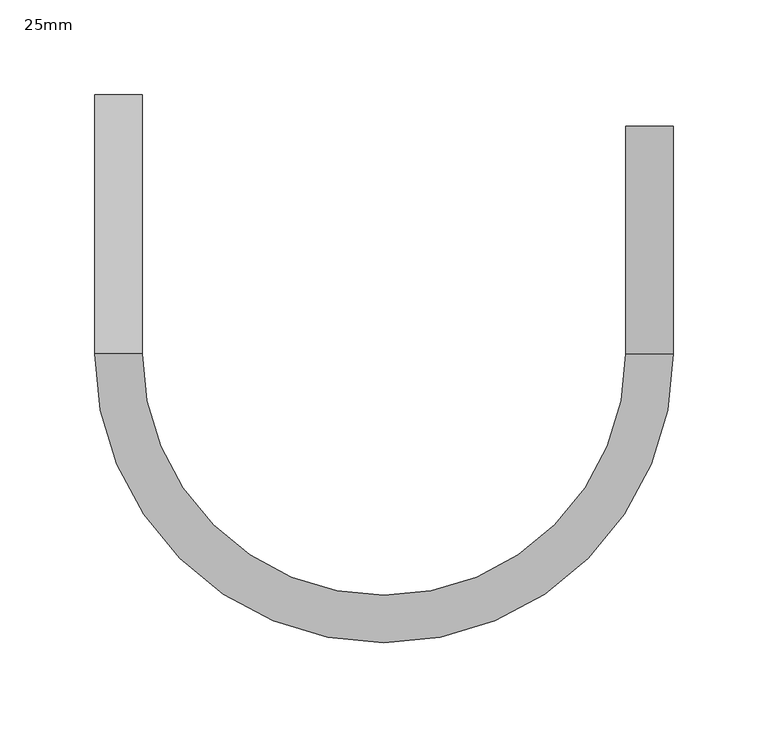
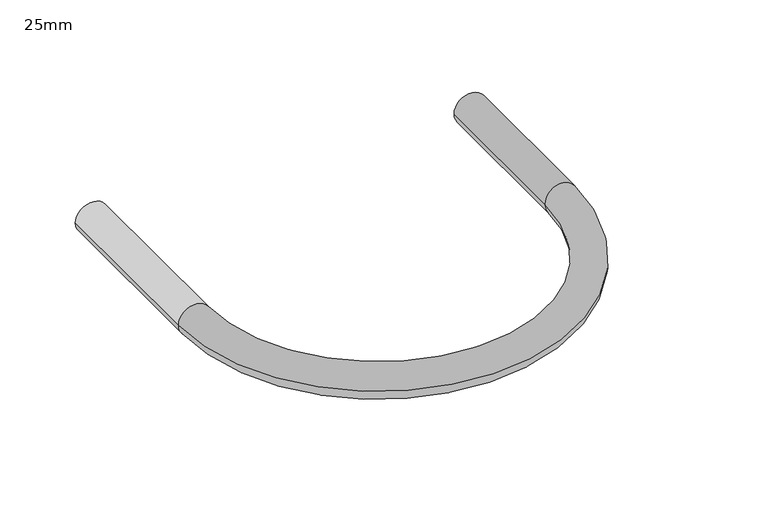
"""IFC4 building model written with IfcOpenShell, lengths in millimetres: pipe fitting geometry, PipeAccessory_HTA_CPVC_ExpansionJoints : 25mm."""

from ifc_helpers import new_model, si_unit, point, frame, origin, origin_with_axes, place, context, project, spatial, circle_curve, ellipse_curve, trimmed, source, transform, mapped, element, save
from ifc_brep_helpers import plane_surface, cylinder_surface, revolved_surface, advanced_brep


def pipe_fitting_25mm_7ae6cada(model_context):
    return source(origin(), model_context, "Body", "AdvancedBrep", [
        advanced_brep(
        [(127.5, 120.0, 0.0), (152.5, 120.0, 0.0), (127.5, 0.0, 0.0), (152.5, 0.0, 0.0), (-152.5, 0.0, 0.0), (-127.5, 0.0, 0.0), (-127.5, 136.5, 0.0), (-152.5, 136.5, 0.0)],
        [
            (0, 1, circle_curve(frame((140.0, 120.0, 0.0), z_axis=(0.0, 1.0, 0.0), x_axis=(1.0, 0.0, 0.0)), 12.5)),
            (1, 0, circle_curve(frame((140.0, 120.0, 0.0), z_axis=(0.0, 1.0, 0.0), x_axis=(1.0, 0.0, 0.0)), 12.5)),
            (0, 2),
            (2, 3, circle_curve(frame((140.0, 0.0, 0.0), z_axis=(0.0, 1.0, 0.0), x_axis=(1.0, 0.0, 0.0)), 12.5)),
            (3, 1),
            (3, 2, circle_curve(frame((140.0, 0.0, 0.0), z_axis=(0.0, 1.0, 0.0), x_axis=(1.0, 0.0, 0.0)), 12.5)),
            (4, 3, circle_curve(origin_with_axes(), 152.5)),
            (2, 5, circle_curve(frame((0.0, 0.0, 0.0), z_axis=(0.0, 0.0, -1.0), x_axis=(1.0, 0.0, 0.0)), 127.5)),
            (5, 4, circle_curve(frame((-140.0, 0.0, 0.0), z_axis=(0.0, -1.0, 0.0), x_axis=(-1.0, 0.0, 0.0)), 12.5)),
            (4, 5, circle_curve(frame((-140.0, 0.0, 0.0), z_axis=(0.0, -1.0, 0.0), x_axis=(-1.0, 0.0, 0.0)), 12.5)),
            (6, 7, circle_curve(frame((-140.0, 136.5, 0.0), z_axis=(0.0, 1.0, 0.0), x_axis=(-1.0, 0.0, 0.0)), 12.5)),
            (7, 6, circle_curve(frame((-140.0, 136.5, 0.0), z_axis=(0.0, 1.0, 0.0), x_axis=(-1.0, 0.0, 0.0)), 12.5)),
            (5, 6),
            (7, 4),
        ],
        [
            plane_surface(frame((140.0, 120.0, 0.0), z_axis=(0.0, 1.0, 0.0), x_axis=(0.0, 0.0, 1.0))),
            cylinder_surface(frame((140.0, 120.0, 0.0), z_axis=(0.0, 1.0, 0.0), x_axis=(1.0, 0.0, 0.0)), 12.5),
            revolved_surface(trimmed(ellipse_curve(frame((140.0, 0.0, 0.0), z_axis=(0.0, 1.0, 0.0), x_axis=(1.0, 0.0, 0.0)), 12.5, 12.5), [point((127.5, 0.0, 0.0))], [point((152.5, 0.0, 0.0))], True, "CARTESIAN"), (0.0, 0.0, 0.0), (0.0, 0.0, -1.0)),
            revolved_surface(trimmed(ellipse_curve(frame((140.0, 0.0, 0.0), z_axis=(0.0, 1.0, 0.0), x_axis=(1.0, 0.0, 0.0)), 12.5, 12.5), [point((152.5, 0.0, 0.0))], [point((127.5, 0.0, 0.0))], True, "CARTESIAN"), (0.0, 0.0, 0.0), (0.0, 0.0, -1.0)),
            plane_surface(frame((-140.0, 136.5, 0.0), z_axis=(0.0, 1.0, 0.0), x_axis=(0.0, 0.0, 1.0))),
            cylinder_surface(frame((-140.0, 0.0, 0.0), z_axis=(0.0, -1.0, 0.0), x_axis=(-1.0, 0.0, 0.0)), 12.5),
        ],
        [
            (0, [[1, 2]]),
            (1, [[-1, 3, 4, 5]]),
            (1, [[-2, -5, 6, -3]]),
            (2, [[7, -4, 8, 9]]),
            (3, [[-8, -6, -7, 10]]),
            (4, [[11, 12]]),
            (5, [[-9, 13, -12, 14]]),
            (5, [[-10, -14, -11, -13]]),
        ],
    ),
    ])


if __name__ == "__main__":
    model = new_model("IFC4")
    model_context = context("Model", 3, world=origin())
    ifc_project = project(units=[si_unit("LENGTHUNIT", "METRE", prefix="MILLI")], contexts=[model_context])
    site = spatial("IfcSite", under=ifc_project)
    building = spatial("IfcBuilding", under=site)
    placement = place(None, origin())
    pipe_fitting_25mm_shape = pipe_fitting_25mm_7ae6cada(model_context)
    element("IfcPipeFitting", 1, ObjectType="PipeAccessory_HTA_CPVC_ExpansionJoints : 25mm", at=placement, inside=building, context=model_context, shape_type="MappedRepresentation", body=[
        mapped(pipe_fitting_25mm_shape, transform((0.0, 0.0, 0.0), x_axis=(1.0, 0.0, 0.0), y_axis=(0.0, 1.0, 0.0), z_axis=(0.0, 0.0, 1.0))),
    ])
    save(model, "model.ifc")
